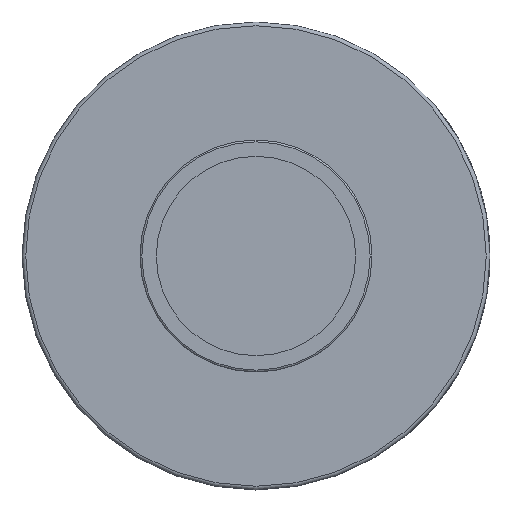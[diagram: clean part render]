
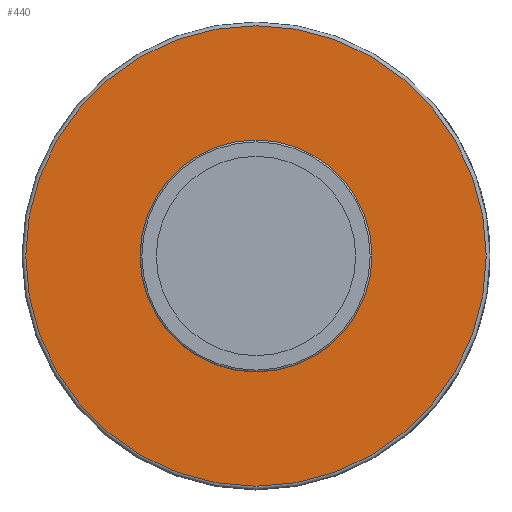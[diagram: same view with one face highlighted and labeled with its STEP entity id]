
A CAD part, left-side view. The second image highlights one B-rep face of the part: STEP entity #440.
In plain terms, the highlighted planar face has unit normal (-1, 0, 0).
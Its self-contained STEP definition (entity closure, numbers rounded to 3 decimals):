
#440 = ADVANCED_FACE( '', ( #1003, #1004 ), #1005, .T. );
#1003 = FACE_OUTER_BOUND( '', #2078, .T. );
#1004 = FACE_BOUND( '', #2079, .T. );
#1005 = PLANE( '', #2080 );
#2078 = EDGE_LOOP( '', ( #4024 ) );
#2079 = EDGE_LOOP( '', ( #4025 ) );
#2080 = AXIS2_PLACEMENT_3D( '', #4026, #4027, #4028 );
#4024 = ORIENTED_EDGE( '', *, *, #5296, .T. );
#4025 = ORIENTED_EDGE( '', *, *, #5297, .F. );
#4026 = CARTESIAN_POINT( '', ( 17.907, 0., 15.735 ) );
#4027 = DIRECTION( '', ( -1., 0., 0. ) );
#4028 = DIRECTION( '', ( 0., 0., 1. ) );
#5296 = EDGE_CURVE( '', #6320, #6320, #6321, .T. );
#5297 = EDGE_CURVE( '', #6322, #6322, #6323, .T. );
#6320 = VERTEX_POINT( '', #8505 );
#6321 = CIRCLE( '', #8506, 31.242 );
#6322 = VERTEX_POINT( '', #8507 );
#6323 = CIRCLE( '', #8508, 15.735 );
#8505 = CARTESIAN_POINT( '', ( 17.907, 0., 31.242 ) );
#8506 = AXIS2_PLACEMENT_3D( '', #9091, #9092, #9093 );
#8507 = CARTESIAN_POINT( '', ( 17.907, 0., 15.735 ) );
#8508 = AXIS2_PLACEMENT_3D( '', #9094, #9095, #9096 );
#9091 = CARTESIAN_POINT( '', ( 17.907, 0., 0. ) );
#9092 = DIRECTION( '', ( -1., 0., 0. ) );
#9093 = DIRECTION( '', ( 0., 0., 1. ) );
#9094 = CARTESIAN_POINT( '', ( 17.907, 0., 0. ) );
#9095 = DIRECTION( '', ( -1., 0., 0. ) );
#9096 = DIRECTION( '', ( 0., 0., 1. ) );
